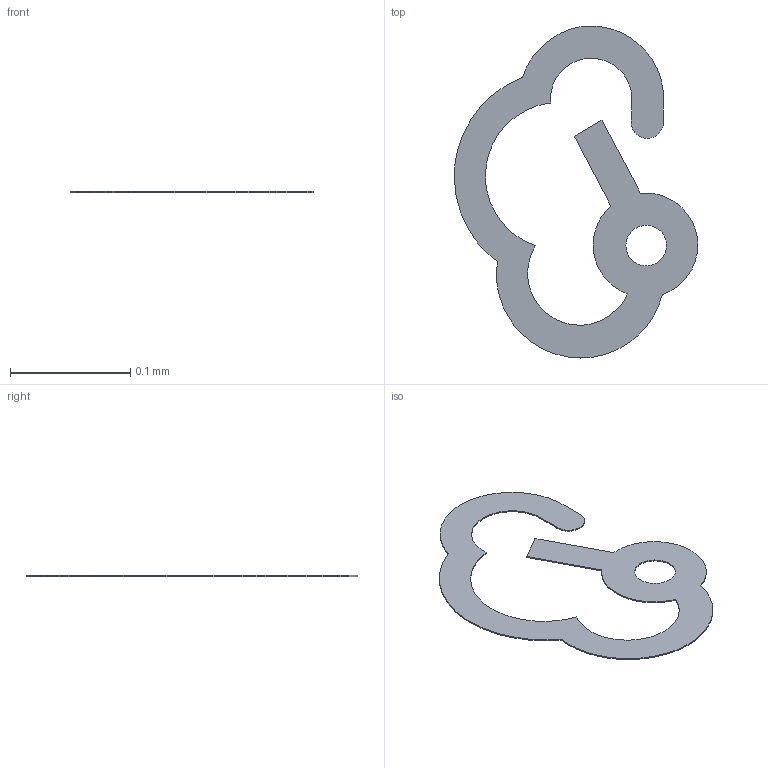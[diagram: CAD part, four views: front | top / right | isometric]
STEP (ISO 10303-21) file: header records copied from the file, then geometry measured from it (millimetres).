
FILE_DESCRIPTION(/* description */ ('STEP AP242 Edition 2','CAx-IF Rec.Pracs.---Representation and Presentation of Product Manufacturing Information (PMI)---4.0---2014-10-13','CAx-IF Rec.Pracs.---3D Tessellated Geometry---0.4---2014-09-14','2;1','CAx-IF Rec.Pracs.---User Defined Attributes---1.5---2016-08-15'),/* implementation_level */ '2;1');
FILE_NAME(/* name */ 'Assembly 1 - SOT-23-3_L2.9-W1.3-P0.95-LS2.4-BR~SOT-23-3P_L2.9-W1.3-H1.0-LS2.4-P0.95~nxQB (4)',/* time_stamp */ '2026-04-02T09:55:24Z',/* author */ (''),/* organization */ (''),/* preprocessor_version */ 'ST-DEVELOPER v20',/* originating_system */ 'ONSHAPE BY PTC INC, 1.212',/* authorisation */ ' ');
FILE_SCHEMA (('AP242_MANAGED_MODEL_BASED_3D_ENGINEERING_MIM_LF { 1 0 10303 442 3 1 4 }'));
Length unit declared in the file: metre
Products named in the file (1): SOT-23-3_L2.9-W1.3-P0.95-LS2.4-BR~SOT-23-3P_L2.9-W1.3-H1.0-LS2.4-P0.9
5~nxQB
Bounding box: 0.2 x 0.28 x 0 mm (x, y, z)
Volume: 0 mm3; surface area: 0 mm2
Topology: 1 solids, 1 shells, 37 faces, 105 edges, 70 vertices
Faces by surface type: bspline 27, plane 9, cylinder 1
Entity records: 1649 total; most frequent: CARTESIAN_POINT 554, ORIENTED_EDGE 210, EDGE_CURVE 105, DIRECTION 95, VERTEX_POINT 70, LINE 49, VECTOR 49, B_SPLINE_CURVE_WITH_KNOTS 44
